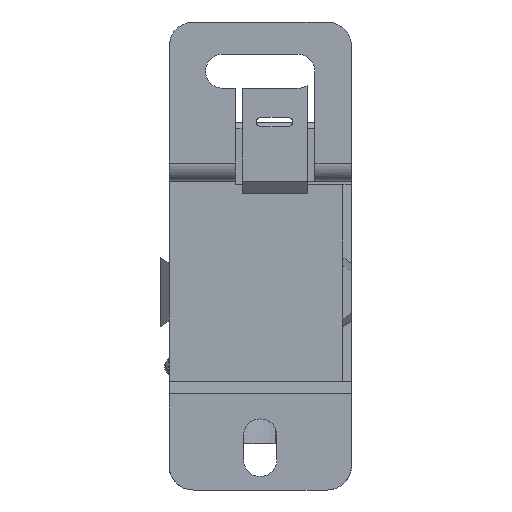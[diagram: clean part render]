
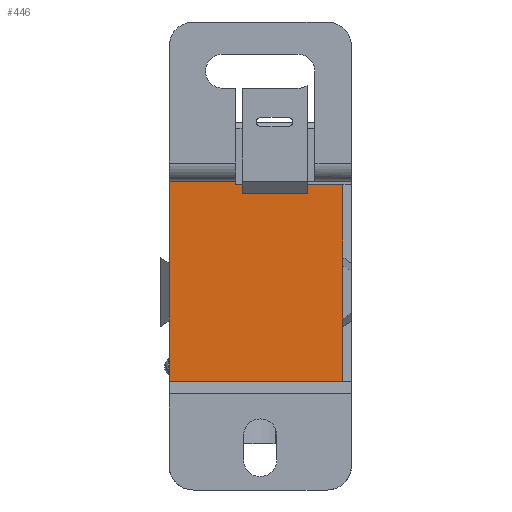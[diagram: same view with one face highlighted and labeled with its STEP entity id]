
A CAD part, front view. The second image highlights one B-rep face of the part: STEP entity #446.
In plain terms, the highlighted planar face has unit normal (0, -1, 0).
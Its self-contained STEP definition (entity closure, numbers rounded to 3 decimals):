
#446 = ADVANCED_FACE ( 'NONE', ( #6790 ), #6350, .T. ) ;
#871 = VERTEX_POINT ( 'NONE', #8952 ) ;
#872 = VERTEX_POINT ( 'NONE', #8953 ) ;
#881 = VERTEX_POINT ( 'NONE', #8962 ) ;
#882 = VERTEX_POINT ( 'NONE', #8963 ) ;
#930 = EDGE_LOOP ( 'NONE', ( #3258, #3259, #3256, #3260, #3262, #3261, #3263, #3264, #3265, #3266 ) ) ;
#2295 = VERTEX_POINT ( 'NONE', #9661 ) ;
#2296 = VERTEX_POINT ( 'NONE', #9662 ) ;
#3256 = ORIENTED_EDGE ( 'NONE', *, *, #3411, .T. ) ;
#3258 = ORIENTED_EDGE ( 'NONE', *, *, #3415, .T. ) ;
#3259 = ORIENTED_EDGE ( 'NONE', *, *, #3620, .T. ) ;
#3260 = ORIENTED_EDGE ( 'NONE', *, *, #3621, .F. ) ;
#3261 = ORIENTED_EDGE ( 'NONE', *, *, #3623, .F. ) ;
#3262 = ORIENTED_EDGE ( 'NONE', *, *, #3622, .T. ) ;
#3263 = ORIENTED_EDGE ( 'NONE', *, *, #3624, .T. ) ;
#3264 = ORIENTED_EDGE ( 'NONE', *, *, #3625, .T. ) ;
#3265 = ORIENTED_EDGE ( 'NONE', *, *, #3606, .F. ) ;
#3266 = ORIENTED_EDGE ( 'NONE', *, *, #3626, .T. ) ;
#3411 = EDGE_CURVE ( 'NONE', #14763, #14762, #10764, .T. ) ;
#3415 = EDGE_CURVE ( 'NONE', #14767, #14766, #10776, .T. ) ;
#3606 = EDGE_CURVE ( 'NONE', #871, #872, #11511, .T. ) ;
#3620 = EDGE_CURVE ( 'NONE', #14766, #14763, #11553, .T. ) ;
#3621 = EDGE_CURVE ( 'NONE', #881, #14762, #11556, .T. ) ;
#3622 = EDGE_CURVE ( 'NONE', #881, #882, #11559, .T. ) ;
#3623 = EDGE_CURVE ( 'NONE', #2295, #882, #11562, .T. ) ;
#3624 = EDGE_CURVE ( 'NONE', #2295, #2296, #11565, .T. ) ;
#3625 = EDGE_CURVE ( 'NONE', #2296, #872, #11568, .T. ) ;
#3626 = EDGE_CURVE ( 'NONE', #871, #14767, #11571, .T. ) ;
#6350 = PLANE ( 'NONE',  #6793 ) ;
#6351 = CARTESIAN_POINT ( 'NONE',  ( 72.486, 6.3, 12.3 ) ) ;
#6352 = DIRECTION ( 'NONE',  ( 0., -1., 0. ) ) ;
#6353 = DIRECTION ( 'NONE',  ( 0., 0., -1. ) ) ;
#6790 = FACE_OUTER_BOUND ( 'NONE', #930, .T. ) ;
#6793 = AXIS2_PLACEMENT_3D ( 'NONE', #6351, #6352, #6353 ) ;
#8952 = CARTESIAN_POINT ( 'NONE',  ( -4., 6.3, 12.3 ) ) ;
#8953 = CARTESIAN_POINT ( 'NONE',  ( -4., 6.3, 11.8 ) ) ;
#8962 = CARTESIAN_POINT ( 'NONE',  ( 13.6, 6.3, -22.7 ) ) ;
#8963 = CARTESIAN_POINT ( 'NONE',  ( 13.6, 6.3, -11.701 ) ) ;
#9661 = CARTESIAN_POINT ( 'NONE',  ( 13.6, 6.3, -0.199 ) ) ;
#9662 = CARTESIAN_POINT ( 'NONE',  ( 13.6, 6.3, 11.8 ) ) ;
#10172 = VECTOR ( 'NONE', #10766, 1000. ) ;
#10176 = VECTOR ( 'NONE', #10778, 1000. ) ;
#10343 = VECTOR ( 'NONE', #11513, 1000. ) ;
#10358 = VECTOR ( 'NONE', #11555, 1000. ) ;
#10359 = VECTOR ( 'NONE', #11558, 1000. ) ;
#10360 = VECTOR ( 'NONE', #11561, 1000. ) ;
#10361 = VECTOR ( 'NONE', #11564, 1000. ) ;
#10362 = VECTOR ( 'NONE', #11567, 1000. ) ;
#10363 = VECTOR ( 'NONE', #11570, 1000. ) ;
#10364 = VECTOR ( 'NONE', #11573, 1000. ) ;
#10764 = LINE ( 'NONE', #10765, #10172 ) ;
#10765 = CARTESIAN_POINT ( 'NONE',  ( -15., 6.3, 12.3 ) ) ;
#10766 = DIRECTION ( 'NONE',  ( 0., 0., -1. ) ) ;
#10776 = LINE ( 'NONE', #10777, #10176 ) ;
#10777 = CARTESIAN_POINT ( 'NONE',  ( -15., 6.3, 12.3 ) ) ;
#10778 = DIRECTION ( 'NONE',  ( 0., 0., -1. ) ) ;
#11511 = LINE ( 'NONE', #11512, #10343 ) ;
#11512 = CARTESIAN_POINT ( 'NONE',  ( -4., 6.3, 12.3 ) ) ;
#11513 = DIRECTION ( 'NONE',  ( 0., 0., -1. ) ) ;
#11553 = LINE ( 'NONE', #11554, #10358 ) ;
#11554 = CARTESIAN_POINT ( 'NONE',  ( -15., 6.3, -11.701 ) ) ;
#11555 = DIRECTION ( 'NONE',  ( 0., 0., -1. ) ) ;
#11556 = LINE ( 'NONE', #11557, #10359 ) ;
#11557 = CARTESIAN_POINT ( 'NONE',  ( 72.486, 6.3, -22.7 ) ) ;
#11558 = DIRECTION ( 'NONE',  ( -1., 0., 0. ) ) ;
#11559 = LINE ( 'NONE', #11560, #10360 ) ;
#11560 = CARTESIAN_POINT ( 'NONE',  ( 13.6, 6.3, 12.3 ) ) ;
#11561 = DIRECTION ( 'NONE',  ( 0., 0., 1. ) ) ;
#11562 = LINE ( 'NONE', #11563, #10361 ) ;
#11563 = CARTESIAN_POINT ( 'NONE',  ( 13.6, 6.3, -11.701 ) ) ;
#11564 = DIRECTION ( 'NONE',  ( 0., 0., -1. ) ) ;
#11565 = LINE ( 'NONE', #11566, #10362 ) ;
#11566 = CARTESIAN_POINT ( 'NONE',  ( 13.6, 6.3, 12.3 ) ) ;
#11567 = DIRECTION ( 'NONE',  ( 0., 0., 1. ) ) ;
#11568 = LINE ( 'NONE', #11569, #10363 ) ;
#11569 = CARTESIAN_POINT ( 'NONE',  ( 72.486, 6.3, 11.8 ) ) ;
#11570 = DIRECTION ( 'NONE',  ( -1., 0., 0. ) ) ;
#11571 = LINE ( 'NONE', #11572, #10364 ) ;
#11572 = CARTESIAN_POINT ( 'NONE',  ( 72.486, 6.3, 12.3 ) ) ;
#11573 = DIRECTION ( 'NONE',  ( -1., 0., 0. ) ) ;
#13513 = CARTESIAN_POINT ( 'NONE',  ( -15., 6.3, -22.7 ) ) ;
#13514 = CARTESIAN_POINT ( 'NONE',  ( -15., 6.3, -10.7 ) ) ;
#13517 = CARTESIAN_POINT ( 'NONE',  ( -15., 6.3, -1.2 ) ) ;
#13518 = CARTESIAN_POINT ( 'NONE',  ( -15., 6.3, 12.3 ) ) ;
#14762 = VERTEX_POINT ( 'NONE', #13513 ) ;
#14763 = VERTEX_POINT ( 'NONE', #13514 ) ;
#14766 = VERTEX_POINT ( 'NONE', #13517 ) ;
#14767 = VERTEX_POINT ( 'NONE', #13518 ) ;
